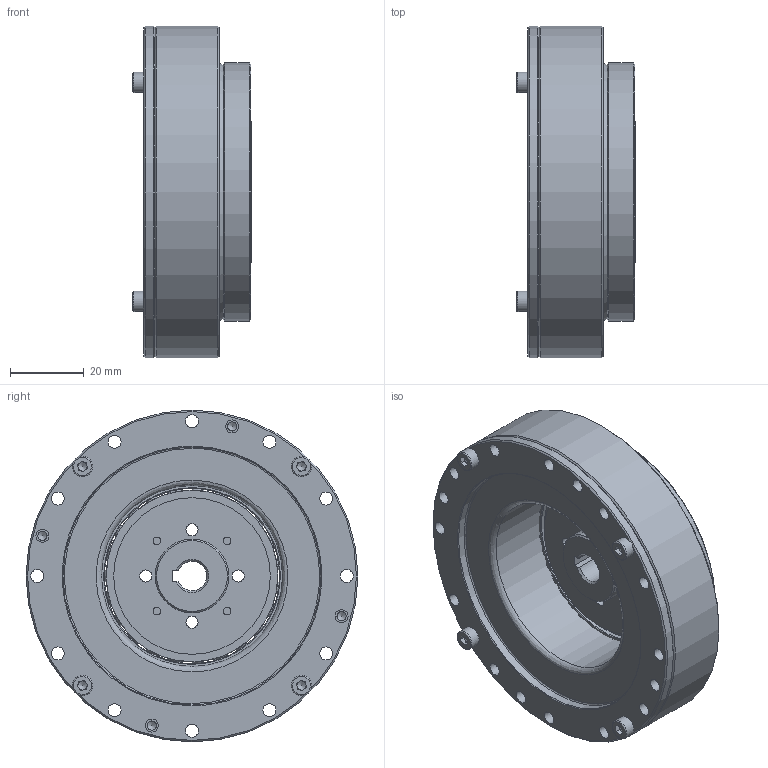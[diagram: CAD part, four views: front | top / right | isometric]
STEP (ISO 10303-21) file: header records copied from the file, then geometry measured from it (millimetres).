
FILE_DESCRIPTION (( 'STEP AP203' ), '1' );
FILE_NAME ('LHS-20-XXX-C-I.STEP', '2025-01-07T06:02:39', ( '' ), ( '' ), 'SwSTEP 2.0', 'SolidWorks 2023', '' );
FILE_SCHEMA (( 'CONFIG_CONTROL_DESIGN' ));
Length unit declared in the file: metre
Products named in the file (1): LHS-20-XXX-C-I
Bounding box: 32.1 x 90 x 90 mm (x, y, z)
Volume: 96830.2 mm3; surface area: 80610.6 mm2
Topology: 45 solids, 45 shells, 697 faces, 1685 edges, 1059 vertices
Faces by surface type: plane 300, cylinder 216, cone 117, bspline 64
Full cylindrical faces by diameter (mm): 2.05 x4, 2.5 x36, 2.9 x4, 3 x8, 3.3 x4, 3.5 x36, 3.7 x16, 4.5 x4, 4.7 x4, 5.5 x8, 5.8 x4, 20 x3, 34 x2, 36 x1, 36.5 x1, 37 x1, 38.5 x1, 39.499 x2, 39.892 x1, 42.5 x1, 46.518 x1, 47.507 x2, 49.086 x1, 49.882 x1, 50 x1, 50.266 x1, 51.2 x1, 54 x1, 55 x2, 57.4 x1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
Entity records: 22454 total; most frequent: CARTESIAN_POINT 7816, DIRECTION 3106, ORIENTED_EDGE 2520, AXIS2_PLACEMENT_3D 1334, EDGE_CURVE 1260, EDGE_LOOP 1158, VERTEX_POINT 950, FACE_OUTER_BOUND 884
